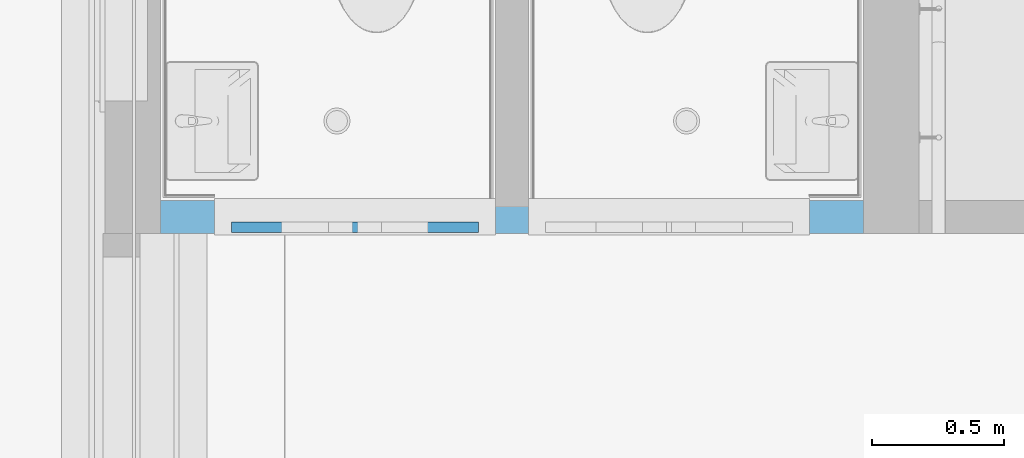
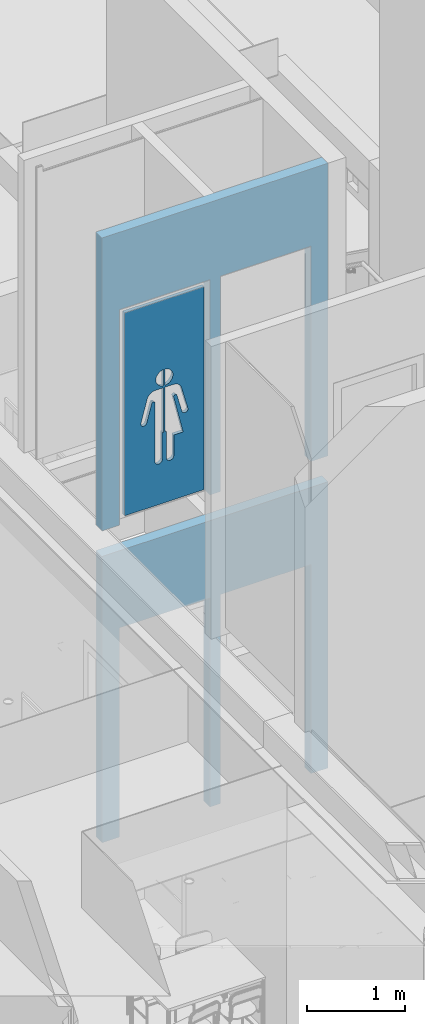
# One storey, part 59 of 347: 1 building element part, 4 openings, 1 element without a shape of its own, plus 1 element that does not belong to this part.
"""IFC2X3 building model written with IfcOpenShell, lengths in millimetres."""

from ifc_helpers import new_model, entity, si_unit, converted_unit, derived_unit, money_unit, direction, frame, origin_with_axes, place, context, subcontext, project, spatial, faceted_brep, material, type_object, element, fill, aggregate, save


model = new_model("IFC2X3")

# Units and contexts
model_context = context("Model", 3, precision=0.01, world=origin_with_axes(), true_north=direction((0.0, 1.0)))
plan_context = context("Plan", 3, precision=0.01, world=origin_with_axes(), true_north=direction((0.0, 1.0)))
body_context = subcontext(model_context, "Body", "Model", "MODEL_VIEW")
ifc_project = project(units=[si_unit("LENGTHUNIT", "METRE", prefix="MILLI"), si_unit("AREAUNIT", "SQUARE_METRE"), si_unit("VOLUMEUNIT", "CUBIC_METRE"), converted_unit("PLANEANGLEUNIT", "DEGREE", entity("IfcPlaneAngleMeasure", 0.0174532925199), si_unit("PLANEANGLEUNIT", "RADIAN"), dimensions=[0, 0, 0, 0, 0, 0, 0]), money_unit("EUR"), converted_unit("TIMEUNIT", "Year", entity("IfcTimeMeasure", 31556926.0), si_unit("TIMEUNIT", "SECOND"), dimensions=[0, 0, 1, 0, 0, 0, 0]), si_unit("MASSUNIT", "GRAM", prefix="KILO"), si_unit("THERMODYNAMICTEMPERATUREUNIT", "DEGREE_CELSIUS"), si_unit("LUMINOUSINTENSITYUNIT", "LUMEN"), si_unit("ENERGYUNIT", "JOULE", prefix="MEGA"), derived_unit("THERMALCONDUCTANCEUNIT", [(si_unit("POWERUNIT", "WATT"), 1), (si_unit("LENGTHUNIT", "METRE"), -1), (si_unit("THERMODYNAMICTEMPERATUREUNIT", "KELVIN"), -1)]), derived_unit("SPECIFICHEATCAPACITYUNIT", [(si_unit("ENERGYUNIT", "JOULE"), 1), (si_unit("MASSUNIT", "GRAM", prefix="KILO"), -1), (si_unit("THERMODYNAMICTEMPERATUREUNIT", "KELVIN"), -1)]), derived_unit("MASSDENSITYUNIT", [(si_unit("MASSUNIT", "GRAM", prefix="KILO"), 1), (si_unit("VOLUMEUNIT", "CUBIC_METRE"), -1)])], contexts=[model_context, plan_context])

# Site, building, storey
site_placement = place(None, origin_with_axes())
site = spatial("IfcSite", under=ifc_project, at=site_placement, Name="Site", CompositionType="ELEMENT")
building_placement = place(site_placement, origin_with_axes())
building = spatial("IfcBuilding", under=site, at=building_placement, Name="Naam gebouw", CompositionType="ELEMENT")
storey_placement = place(building_placement, origin_with_axes())
storey = spatial("IfcBuildingStorey", under=building, at=storey_placement, Name="begane grond", CompositionType="ELEMENT", Elevation=0.0)

# Wall, openings, door, building element part
ifc_material_1 = material(Name="ALG - LICHTE SCHEIDINGSWAND")
wall_type = type_object("IfcWallType", Name="ALG LSW 125 125", PredefinedType="NOTDEFINED")
wall_placement = place(storey_placement, frame((35705.0, 30074.9999277, 0.0), z_axis=(0.0, 0.0, 1.0), x_axis=(1.0, 0.0, 0.0)))
wall = element("IfcWall", 1, at=wall_placement, inside=storey, type_object=wall_type, material=ifc_material_1, Name="22_GF 125 ECO DGS/2.75.2A", context=body_context, shape_type="Brep", body=[
    faceted_brep([(1392.5, 125.0, 2600.0), (1392.5, 125.0, 0.0), (1267.5, 125.0, 0.0), (1267.5, 125.0, 2600.0), (203.5, 125.0, 2600.0), (203.5, 125.0, 0.0), (0.0, 125.0, 0.0), (0.0, 125.0, 3560.0), (2660.0, 125.0, 3560.0), (2660.0, 125.0, 0.0), (2456.5, 125.0, 0.0), (2456.5, 125.0, 2600.0), (1392.5, 0.0, 2600.0), (1392.5, 0.0, 0.0), (1267.5, 0.0, 0.0), (1267.5, 0.0, 2600.0), (203.5, 0.0, 2600.0), (203.5, 0.0, 0.0), (0.0, 0.0, 0.0), (0.0, 0.0, 3560.0), (2660.0, 0.0, 3560.0), (2660.0, 0.0, 0.0), (2456.5, 0.0, 0.0), (2456.5, 0.0, 2600.0)], [[[0, 1, 2, 3, 4, 5, 6, 7, 8, 9, 10, 11]], [[1, 0, 12, 13]], [[1, 13, 14, 2]], [[2, 14, 15, 3]], [[3, 15, 16, 4]], [[4, 16, 17, 5]], [[17, 18, 6, 5]], [[7, 6, 18, 19]], [[8, 7, 19, 20]], [[20, 21, 9, 8]], [[22, 10, 9, 21]], [[11, 10, 22, 23]], [[0, 11, 23, 12]], [[23, 22, 21, 20, 19, 18, 17, 16, 15, 14, 13, 12]]]),
    faceted_brep([(203.5, 125.0, 6560.0), (203.5, 125.0, 3960.0), (203.5, 125.0, 3880.0), (0.0, 125.0, 3880.0), (0.0, 125.0, 7520.0), (2660.0, 125.0, 7520.0), (2660.0, 125.0, 3880.0), (2456.5, 125.0, 3880.0), (2456.5, 125.0, 3960.0), (2456.5, 125.0, 6560.0), (1392.5, 125.0, 6560.0), (1392.5, 125.0, 3960.0), (1392.5, 125.0, 3880.0), (1267.5, 125.0, 3880.0), (1267.5, 125.0, 3960.0), (1267.5, 125.0, 6560.0), (203.5, 0.0, 6560.0), (203.5, 0.0, 3960.0), (203.5, 0.0, 3880.0), (0.0, 0.0, 3880.0), (0.0, 0.0, 7520.0), (2660.0, 0.0, 7520.0), (2660.0, 0.0, 3880.0), (2456.5, 0.0, 3880.0), (2456.5, 0.0, 3960.0), (2456.5, 0.0, 6560.0), (1392.5, 0.0, 6560.0), (1392.5, 0.0, 3960.0), (1392.5, 0.0, 3880.0), (1267.5, 0.0, 3880.0), (1267.5, 0.0, 3960.0), (1267.5, 0.0, 6560.0)], [[[0, 1, 2, 3, 4, 5, 6, 7, 8, 9, 10, 11, 12, 13, 14, 15]], [[1, 0, 16, 17]], [[1, 17, 18, 2]], [[18, 19, 3, 2]], [[19, 20, 4, 3]], [[4, 20, 21, 5]], [[6, 5, 21, 22]], [[7, 6, 22, 23]], [[8, 7, 23, 24]], [[8, 24, 25, 9]], [[9, 25, 26, 10]], [[10, 26, 27, 11]], [[27, 28, 12, 11]], [[28, 29, 13, 12]], [[30, 14, 13, 29]], [[15, 14, 30, 31]], [[0, 15, 31, 16]], [[31, 30, 29, 28, 27, 26, 25, 24, 23, 22, 21, 20, 19, 18, 17, 16]]]),
])
opening_1_placement = place(wall_placement, frame((735.5, 0.0, 0.0), z_axis=(0.0, 0.0, 1.0), x_axis=(1.0, 0.0, 0.0)))
element("IfcOpeningElement", 2, at=opening_1_placement, cuts=wall, Name="32_02.05", context=body_context, shape_type="Brep", body=[
    faceted_brep([(-532.0, 125.0, 2600.0), (-532.0, 125.0, 0.0), (-532.0, -257.0, 0.0), (-532.0, -257.0, 2600.0), (532.0, 125.0, 2600.0), (532.0, 125.0, 0.0), (532.0, -257.0, 0.0), (532.0, -257.0, 2600.0)], [[[0, 1, 2, 3]], [[0, 4, 5, 1]], [[1, 5, 6, 2]], [[3, 2, 6, 7]], [[4, 0, 3, 7]], [[5, 4, 7, 6]]]),
])
opening_2_placement = place(wall_placement, frame((1924.5, 0.0, 0.0), z_axis=(0.0, 0.0, 1.0), x_axis=(1.0, 0.0, 0.0)))
element("IfcOpeningElement", 3, at=opening_2_placement, cuts=wall, Name="32_02.05", context=body_context, shape_type="Brep", body=[
    faceted_brep([(-532.0, 125.0, 2600.0), (-532.0, 125.0, 0.0), (-532.0, -257.0, 0.0), (-532.0, -257.0, 2600.0), (532.0, 125.0, 2600.0), (532.0, 125.0, 0.0), (532.0, -257.0, 0.0), (532.0, -257.0, 2600.0)], [[[0, 1, 2, 3]], [[0, 4, 5, 1]], [[1, 5, 6, 2]], [[3, 2, 6, 7]], [[4, 0, 3, 7]], [[5, 4, 7, 6]]]),
])
opening_3_placement = place(wall_placement, frame((1924.5, 0.0, 3960.0), z_axis=(0.0, 0.0, 1.0), x_axis=(1.0, 0.0, 0.0)))
element("IfcOpeningElement", 4, at=opening_3_placement, cuts=wall, Name="32_02.05", context=body_context, shape_type="Brep", body=[
    faceted_brep([(-532.0, -125.0, 0.0), (-532.0, -125.0, 2600.0), (-532.0, 257.0, 2600.0), (-532.0, 257.0, 0.0), (532.0, -125.0, 0.0), (532.0, -125.0, 2600.0), (532.0, 257.0, 2600.0), (532.0, 257.0, 0.0)], [[[0, 1, 2, 3]], [[0, 4, 5, 1]], [[1, 5, 6, 2]], [[3, 2, 6, 7]], [[4, 0, 3, 7]], [[5, 4, 7, 6]]]),
])
opening_4_placement = place(wall_placement, frame((735.5, 0.0, 3960.0), z_axis=(0.0, 0.0, 1.0), x_axis=(1.0, 0.0, 0.0)))
opening_4 = element("IfcOpeningElement", 5, at=opening_4_placement, cuts=wall, Name="32_02.05", context=body_context, shape_type="Brep", body=[
    faceted_brep([(-532.0, -125.0, 0.0), (-532.0, -125.0, 2600.0), (-532.0, 257.0, 2600.0), (-532.0, 257.0, 0.0), (532.0, -125.0, 0.0), (532.0, -125.0, 2600.0), (532.0, 257.0, 2600.0), (532.0, 257.0, 0.0)], [[[0, 1, 2, 3]], [[0, 4, 5, 1]], [[1, 5, 6, 2]], [[3, 2, 6, 7]], [[4, 0, 3, 7]], [[5, 4, 7, 6]]]),
])
door_style = type_object("IfcDoorStyle", Name="D1 25", ConstructionType="NOTDEFINED", OperationType="SINGLE_SWING_RIGHT", ParameterTakesPrecedence=False, Sizeable=False)
door_placement = place(opening_4_placement, frame((532.0, 0.0, 0.0), z_axis=(0.0, 0.0, 1.0), x_axis=(-1.0, 0.0, 0.0)))
door = element("IfcDoor", 6, at=door_placement, inside=storey, type_object=door_style, Name="32_02.05", ObjectType="DOOR", OverallHeight=2600.0, OverallWidth=1064.0)
fill(opening_4, door)
ifc_material_2 = material(Name="Hout C")
building_element_part_placement = place(door_placement, origin_with_axes())
building_element_part = element("IfcBuildingElementPart", 7, at=building_element_part_placement, material=ifc_material_2, Name="Hout C", context=body_context, shape_type="Brep", body=[
    faceted_brep([(999.0, -3.0, 2535.0), (999.0, -43.0, 2535.0), (999.0, -43.0, 10.0), (999.0, -3.0, 10.0), (65.0, -3.0, 2535.0), (65.0, -43.0, 2535.0), (65.0, -43.0, 10.0), (521.956979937, -43.0, 890.229090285), (506.89247812, -43.0, 890.229090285), (506.89247812, -43.0, 563.286854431), (507.306718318, -43.0, 559.546364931), (506.825716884, -43.0, 552.034934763), (505.049848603, -43.0, 544.721284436), (502.03307235, -43.0, 537.827635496), (497.867051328, -43.0, 531.563447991), (492.678367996, -43.0, 526.119056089), (486.624677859, -43.0, 521.659884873), (479.889919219, -43.0, 518.321424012), (472.678724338, -43.0, 516.205110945), (465.21020169, -43.0, 515.375248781), (457.711278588, -43.0, 515.857052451), (450.409805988, -43.0, 517.635882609), (443.527635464, -43.0, 520.657690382), (437.273878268, -43.0, 524.830659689), (431.838551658, -43.0, 530.027996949), (427.386805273, -43.0, 536.091783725), (424.053903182, -43.0, 542.8377749), (421.941113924, -43.0, 550.06099695), (421.112633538, -43.0, 557.54197595), (421.526873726, -43.0, 563.286854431), (421.526873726, -43.0, 814.780876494), (312.133961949, -43.0, 814.780876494), (423.986544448, -43.0, 1292.61952191), (423.214725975, -43.0, 1296.47224326), (421.800308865, -43.0, 1299.82482097), (419.826180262, -43.0, 1302.8804449), (417.352323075, -43.0, 1305.54627145), (414.453904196, -43.0, 1307.74130085), (411.218990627, -43.0, 1309.39883823), (407.745873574, -43.0, 1310.46852015), (404.140081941, -43.0, 1310.91784487), (400.511175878, -43.0, 1310.73315989), (396.969417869, -43.0, 1309.92007677), (393.622422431, -43.0, 1308.50330061), (390.571886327, -43.0, 1306.52587948), (387.910498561, -43.0, 1304.04789628), (385.719124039, -43.0, 1301.14464328), (384.064346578, -43.0, 1297.90433437), (382.996445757, -43.0, 1294.42542469), (382.772157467, -43.0, 1292.61952191), (324.076421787, -43.0, 1073.19870027), (323.280860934, -43.0, 1070.22315824), (320.682237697, -43.0, 1064.63924071), (317.155070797, -43.0, 1059.59215425), (312.806531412, -43.0, 1055.235252), (307.768747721, -43.0, 1051.70091623), (302.194790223, -43.0, 1049.09653598), (296.254020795, -43.0, 1047.50124399), (290.126946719, -43.0, 1046.96351241), (283.999736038, -43.0, 1047.49967995), (278.058560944, -43.0, 1049.09345542), (272.483941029, -43.0, 1051.69641276), (267.445258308, -43.0, 1055.22946244), (263.095610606, -43.0, 1059.58525451), (259.567159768, -43.0, 1064.63144045), (256.967115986, -43.0, 1070.21469446), (255.374480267, -43.0, 1076.16537218), (254.837644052, -43.0, 1082.30266527), (255.37291883, -43.0, 1088.44009521), (256.168479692, -43.0, 1091.41563724), (330.41108363, -43.0, 1368.954906), (332.68519628, -43.0, 1377.45616444), (340.111863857, -43.0, 1393.40926659), (350.191318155, -43.0, 1407.82822709), (362.617300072, -43.0, 1420.27493311), (377.01225242, -43.0, 1430.37119778), (392.938791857, -43.0, 1437.81025123), (409.912998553, -43.0, 1442.36606156), (427.419117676, -43.0, 1443.51593625), (521.956979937, -43.0, 1443.51593625), (521.956979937, -43.0, 1669.35630499), (521.956979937, -43.0, 1469.16959144), (513.214526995, -43.0, 1470.04970729), (496.300408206, -43.0, 1474.82448312), (480.471003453, -43.0, 1482.46872393), (466.207281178, -43.0, 1492.75016333), (453.942637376, -43.0, 1505.35640498), (444.049727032, -43.0, 1519.90441461), (436.829141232, -43.0, 1535.9521583), (432.500273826, -43.0, 1553.01203348), (431.569892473, -43.0, 1569.26294821), (431.569892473, -43.0, 1578.06409863), (434.621410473, -43.0, 1595.39898096), (440.631727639, -43.0, 1611.93973315), (449.418223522, -43.0, 1627.18377283), (460.713924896, -43.0, 1640.66791757), (474.175617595, -43.0, 1651.98245845), (489.394274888, -43.0, 1660.78360886), (505.907485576, -43.0, 1666.80395031), (542.043020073, -43.0, 1669.35630499), (550.785473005, -43.0, 1668.47618914), (567.699591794, -43.0, 1663.7014133), (583.528996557, -43.0, 1656.05717249), (597.792718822, -43.0, 1645.77573309), (610.057362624, -43.0, 1633.16949145), (619.950272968, -43.0, 1618.62148182), (627.170858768, -43.0, 1602.57373813), (631.499726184, -43.0, 1585.51386294), (632.430107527, -43.0, 1569.26294821), (632.430107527, -43.0, 1560.4617978), (629.378589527, -43.0, 1543.12691547), (623.368272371, -43.0, 1526.58616327), (614.581776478, -43.0, 1511.34212359), (603.286075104, -43.0, 1497.85797885), (589.824382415, -43.0, 1486.54343798), (574.605725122, -43.0, 1477.74228756), (558.092514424, -43.0, 1471.72194611), (542.043020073, -43.0, 1469.16959144), (808.62552127, -43.0, 1088.44895872), (809.162357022, -43.0, 1082.31166558), (808.627081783, -43.0, 1076.17423568), (807.035959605, -43.0, 1070.22315174), (804.437335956, -43.0, 1064.63923441), (800.910168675, -43.0, 1059.59214821), (796.561628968, -43.0, 1055.23524628), (791.523845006, -43.0, 1051.70091091), (785.949887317, -43.0, 1049.09653107), (780.009117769, -43.0, 1047.50123953), (773.882043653, -43.0, 1046.96350842), (767.754833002, -43.0, 1047.49967641), (761.813658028, -43.0, 1049.09345233), (756.239038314, -43.0, 1051.6964101), (751.200355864, -43.0, 1055.22946015), (746.850708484, -43.0, 1059.58525256), (743.322258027, -43.0, 1064.63143877), (740.722214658, -43.0, 1070.21469297), (739.923578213, -43.0, 1073.19870026), (681.011836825, -43.0, 1292.61952191), (680.349375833, -43.0, 1295.95494878), (679.047948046, -43.0, 1299.10211348), (677.220702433, -43.0, 1301.97509819), (674.923158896, -43.0, 1304.48660874), (672.225127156, -43.0, 1306.56033414), (669.208585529, -43.0, 1308.13326528), (665.965190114, -43.0, 1309.15760948), (662.593489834, -43.0, 1309.60224253), (659.195932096, -43.0, 1309.45365449), (655.875749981, -43.0, 1308.71636013), (652.733825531, -43.0, 1307.41276178), (649.865624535, -43.0, 1305.58246859), (647.358295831, -43.0, 1303.2810931), (645.288023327, -43.0, 1300.57856146), (643.717711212, -43.0, 1297.5569887), (642.695072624, -43.0, 1294.3081838), (642.473126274, -43.0, 1292.61952191), (642.473126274, -43.0, 563.286854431), (642.887366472, -43.0, 559.546364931), (642.406365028, -43.0, 552.034934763), (640.630496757, -43.0, 544.721284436), (637.613720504, -43.0, 537.827635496), (633.447699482, -43.0, 531.563447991), (628.25901614, -43.0, 526.119056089), (622.205326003, -43.0, 521.659884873), (615.470567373, -43.0, 518.321424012), (608.259372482, -43.0, 516.205110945), (600.790849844, -43.0, 515.375248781), (593.291926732, -43.0, 515.857052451), (585.990454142, -43.0, 517.635882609), (579.108283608, -43.0, 520.657690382), (572.854526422, -43.0, 524.830659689), (567.419199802, -43.0, 530.027996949), (562.967453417, -43.0, 536.091783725), (559.634551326, -43.0, 542.8377749), (557.521762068, -43.0, 550.06099695), (556.693281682, -43.0, 557.54197595), (557.10752188, -43.0, 563.286854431), (557.10752188, -43.0, 890.229090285), (542.043020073, -43.0, 890.229090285), (542.043020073, -43.0, 1443.51593625), (636.580882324, -43.0, 1443.51593625), (645.367378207, -43.0, 1443.51593625), (662.673396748, -43.0, 1440.4593288), (679.186607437, -43.0, 1434.43898735), (694.405264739, -43.0, 1425.63783693), (707.866957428, -43.0, 1414.32329606), (719.162658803, -43.0, 1400.83915132), (727.949154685, -43.0, 1385.59511164), (733.58891637, -43.0, 1368.954906), (65.0, -3.0, 10.0), (521.956979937, -3.0, 890.229090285), (521.956979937, -3.0, 1443.51593625), (427.419117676, -3.0, 1443.51593625), (409.912998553, -3.0, 1442.36606156), (392.938791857, -3.0, 1437.81025123), (377.01225242, -3.0, 1430.37119778), (362.617300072, -3.0, 1420.27493311), (350.191318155, -3.0, 1407.82822709), (340.111863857, -3.0, 1393.40926659), (332.68519628, -3.0, 1377.45616444), (330.41108363, -3.0, 1368.954906), (256.168479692, -3.0, 1091.41563724), (255.37291883, -3.0, 1088.44009521), (254.837644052, -3.0, 1082.30266527), (255.374480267, -3.0, 1076.16537218), (256.967115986, -3.0, 1070.21469446), (259.567159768, -3.0, 1064.63144045), (263.095610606, -3.0, 1059.58525451), (267.445258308, -3.0, 1055.22946244), (272.483941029, -3.0, 1051.69641276), (278.058560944, -3.0, 1049.09345542), (283.999736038, -3.0, 1047.49967995), (290.126946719, -3.0, 1046.96351241), (296.254020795, -3.0, 1047.50124399), (302.194790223, -3.0, 1049.09653598), (307.768747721, -3.0, 1051.70091623), (312.806531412, -3.0, 1055.235252), (317.155070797, -3.0, 1059.59215425), (320.682237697, -3.0, 1064.63924071), (323.280860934, -3.0, 1070.22315824), (324.076421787, -3.0, 1073.19870027), (382.772157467, -3.0, 1292.61952191), (382.996445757, -3.0, 1294.42542469), (384.064346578, -3.0, 1297.90433437), (385.719124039, -3.0, 1301.14464328), (387.910498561, -3.0, 1304.04789628), (390.571886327, -3.0, 1306.52587948), (393.622422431, -3.0, 1308.50330061), (396.969417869, -3.0, 1309.92007677), (400.511175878, -3.0, 1310.73315989), (404.140081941, -3.0, 1310.91784487), (407.745873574, -3.0, 1310.46852015), (411.218990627, -3.0, 1309.39883823), (414.453904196, -3.0, 1307.74130085), (417.352323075, -3.0, 1305.54627145), (419.826180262, -3.0, 1302.8804449), (421.800308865, -3.0, 1299.82482097), (423.214725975, -3.0, 1296.47224326), (423.986544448, -3.0, 1292.61952191), (312.133961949, -3.0, 814.780876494), (421.526873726, -3.0, 814.780876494), (421.526873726, -3.0, 563.286854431), (421.112633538, -3.0, 557.54197595), (421.941113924, -3.0, 550.06099695), (424.053903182, -3.0, 542.8377749), (427.386805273, -3.0, 536.091783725), (431.838551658, -3.0, 530.027996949), (437.273878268, -3.0, 524.830659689), (443.527635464, -3.0, 520.657690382), (450.409805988, -3.0, 517.635882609), (457.711278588, -3.0, 515.857052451), (465.21020169, -3.0, 515.375248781), (472.678724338, -3.0, 516.205110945), (479.889919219, -3.0, 518.321424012), (486.624677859, -3.0, 521.659884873), (492.678367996, -3.0, 526.119056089), (497.867051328, -3.0, 531.563447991), (502.03307235, -3.0, 537.827635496), (505.049848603, -3.0, 544.721284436), (506.825716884, -3.0, 552.034934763), (507.306718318, -3.0, 559.546364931), (506.89247812, -3.0, 563.286854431), (506.89247812, -3.0, 890.229090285), (521.956979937, -3.0, 1669.35630499), (505.907485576, -3.0, 1666.80395031), (489.394274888, -3.0, 1660.78360886), (474.175617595, -3.0, 1651.98245845), (460.713924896, -3.0, 1640.66791757), (449.418223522, -3.0, 1627.18377283), (440.631727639, -3.0, 1611.93973315), (434.621410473, -3.0, 1595.39898096), (431.569892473, -3.0, 1578.06409863), (431.569892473, -3.0, 1569.26294821), (432.500273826, -3.0, 1553.01203348), (436.829141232, -3.0, 1535.9521583), (444.049727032, -3.0, 1519.90441461), (453.942637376, -3.0, 1505.35640498), (466.207281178, -3.0, 1492.75016333), (480.471003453, -3.0, 1482.46872393), (496.300408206, -3.0, 1474.82448312), (513.214526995, -3.0, 1470.04970729), (521.956979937, -3.0, 1469.16959144), (542.043020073, -3.0, 1669.35630499), (542.043020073, -3.0, 1469.16959144), (558.092514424, -3.0, 1471.72194611), (574.605725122, -3.0, 1477.74228756), (589.824382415, -3.0, 1486.54343798), (603.286075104, -3.0, 1497.85797885), (614.581776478, -3.0, 1511.34212359), (623.368272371, -3.0, 1526.58616327), (629.378589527, -3.0, 1543.12691547), (632.430107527, -3.0, 1560.4617978), (632.430107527, -3.0, 1569.26294821), (631.499726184, -3.0, 1585.51386294), (627.170858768, -3.0, 1602.57373813), (619.950272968, -3.0, 1618.62148182), (610.057362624, -3.0, 1633.16949145), (597.792718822, -3.0, 1645.77573309), (583.528996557, -3.0, 1656.05717249), (567.699591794, -3.0, 1663.7014133), (550.785473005, -3.0, 1668.47618914), (808.62552127, -3.0, 1088.44895872), (733.58891637, -3.0, 1368.954906), (727.949154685, -3.0, 1385.59511164), (719.162658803, -3.0, 1400.83915132), (707.866957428, -3.0, 1414.32329606), (694.405264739, -3.0, 1425.63783693), (679.186607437, -3.0, 1434.43898735), (662.673396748, -3.0, 1440.4593288), (645.367378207, -3.0, 1443.51593625), (636.580882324, -3.0, 1443.51593625), (542.043020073, -3.0, 1443.51593625), (542.043020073, -3.0, 890.229090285), (557.10752188, -3.0, 890.229090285), (557.10752188, -3.0, 563.286854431), (556.693281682, -3.0, 557.54197595), (557.521762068, -3.0, 550.06099695), (559.634551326, -3.0, 542.8377749), (562.967453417, -3.0, 536.091783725), (567.419199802, -3.0, 530.027996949), (572.854526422, -3.0, 524.830659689), (579.108283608, -3.0, 520.657690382), (585.990454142, -3.0, 517.635882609), (593.291926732, -3.0, 515.857052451), (600.790849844, -3.0, 515.375248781), (608.259372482, -3.0, 516.205110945), (615.470567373, -3.0, 518.321424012), (622.205326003, -3.0, 521.659884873), (628.25901614, -3.0, 526.119056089), (633.447699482, -3.0, 531.563447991), (637.613720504, -3.0, 537.827635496), (640.630496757, -3.0, 544.721284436), (642.406365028, -3.0, 552.034934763), (642.887366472, -3.0, 559.546364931), (642.473126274, -3.0, 563.286854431), (642.473126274, -3.0, 1292.61952191), (642.695072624, -3.0, 1294.3081838), (643.717711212, -3.0, 1297.5569887), (645.288023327, -3.0, 1300.57856146), (647.358295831, -3.0, 1303.2810931), (649.865624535, -3.0, 1305.58246859), (652.733825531, -3.0, 1307.41276178), (655.875749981, -3.0, 1308.71636013), (659.195932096, -3.0, 1309.45365449), (662.593489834, -3.0, 1309.60224253), (665.965190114, -3.0, 1309.15760948), (669.208585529, -3.0, 1308.13326528), (672.225127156, -3.0, 1306.56033414), (674.923158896, -3.0, 1304.48660874), (677.220702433, -3.0, 1301.97509819), (679.047948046, -3.0, 1299.10211348), (680.349375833, -3.0, 1295.95494878), (681.011836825, -3.0, 1292.61952191), (739.923578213, -3.0, 1073.19870026), (740.722214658, -3.0, 1070.21469297), (743.322258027, -3.0, 1064.63143877), (746.850708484, -3.0, 1059.58525256), (751.200355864, -3.0, 1055.22946015), (756.239038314, -3.0, 1051.6964101), (761.813658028, -3.0, 1049.09345233), (767.754833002, -3.0, 1047.49967641), (773.882043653, -3.0, 1046.96350842), (780.009117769, -3.0, 1047.50123953), (785.949887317, -3.0, 1049.09653107), (791.523845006, -3.0, 1051.70091091), (796.561628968, -3.0, 1055.23524628), (800.910168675, -3.0, 1059.59214821), (804.437335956, -3.0, 1064.63923441), (807.035959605, -3.0, 1070.22315174), (808.627081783, -3.0, 1076.17423568), (809.162357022, -3.0, 1082.31166558)], [[[0, 1, 2, 3]], [[4, 5, 1, 0]], [[1, 5, 6, 2], [7, 8, 9, 10, 11, 12, 13, 14, 15, 16, 17, 18, 19, 20, 21, 22, 23, 24, 25, 26, 27, 28, 29, 30, 31, 32, 33, 34, 35, 36, 37, 38, 39, 40, 41, 42, 43, 44, 45, 46, 47, 48, 49, 50, 51, 52, 53, 54, 55, 56, 57, 58, 59, 60, 61, 62, 63, 64, 65, 66, 67, 68, 69, 70, 71, 72, 73, 74, 75, 76, 77, 78, 79], [80, 81, 82, 83, 84, 85, 86, 87, 88, 89, 90, 91, 92, 93, 94, 95, 96, 97, 98], [99, 100, 101, 102, 103, 104, 105, 106, 107, 108, 109, 110, 111, 112, 113, 114, 115, 116, 117], [118, 119, 120, 121, 122, 123, 124, 125, 126, 127, 128, 129, 130, 131, 132, 133, 134, 135, 136, 137, 138, 139, 140, 141, 142, 143, 144, 145, 146, 147, 148, 149, 150, 151, 152, 153, 154, 155, 156, 157, 158, 159, 160, 161, 162, 163, 164, 165, 166, 167, 168, 169, 170, 171, 172, 173, 174, 175, 176, 177, 178, 179, 180, 181, 182, 183, 184, 185, 186, 187]], [[3, 2, 6, 188]], [[0, 3, 188, 4], [189, 190, 191, 192, 193, 194, 195, 196, 197, 198, 199, 200, 201, 202, 203, 204, 205, 206, 207, 208, 209, 210, 211, 212, 213, 214, 215, 216, 217, 218, 219, 220, 221, 222, 223, 224, 225, 226, 227, 228, 229, 230, 231, 232, 233, 234, 235, 236, 237, 238, 239, 240, 241, 242, 243, 244, 245, 246, 247, 248, 249, 250, 251, 252, 253, 254, 255, 256, 257, 258, 259, 260, 261], [262, 263, 264, 265, 266, 267, 268, 269, 270, 271, 272, 273, 274, 275, 276, 277, 278, 279, 280], [281, 282, 283, 284, 285, 286, 287, 288, 289, 290, 291, 292, 293, 294, 295, 296, 297, 298, 299], [300, 301, 302, 303, 304, 305, 306, 307, 308, 309, 310, 311, 312, 313, 314, 315, 316, 317, 318, 319, 320, 321, 322, 323, 324, 325, 326, 327, 328, 329, 330, 331, 332, 333, 334, 335, 336, 337, 338, 339, 340, 341, 342, 343, 344, 345, 346, 347, 348, 349, 350, 351, 352, 353, 354, 355, 356, 357, 358, 359, 360, 361, 362, 363, 364, 365, 366, 367, 368, 369]], [[188, 6, 5, 4]], [[261, 8, 7, 189]], [[260, 9, 8, 261]], [[259, 10, 9, 260]], [[258, 11, 10, 259]], [[257, 12, 11, 258]], [[256, 13, 12, 257]], [[255, 14, 13, 256]], [[254, 15, 14, 255]], [[253, 16, 15, 254]], [[252, 17, 16, 253]], [[251, 18, 17, 252]], [[250, 19, 18, 251]], [[249, 20, 19, 250]], [[248, 21, 20, 249]], [[247, 22, 21, 248]], [[246, 23, 22, 247]], [[245, 24, 23, 246]], [[244, 25, 24, 245]], [[243, 26, 25, 244]], [[242, 27, 26, 243]], [[241, 28, 27, 242]], [[240, 29, 28, 241]], [[239, 30, 29, 240]], [[238, 31, 30, 239]], [[237, 32, 31, 238]], [[236, 33, 32, 237]], [[235, 34, 33, 236]], [[234, 35, 34, 235]], [[233, 36, 35, 234]], [[232, 37, 36, 233]], [[231, 38, 37, 232]], [[230, 39, 38, 231]], [[229, 40, 39, 230]], [[228, 41, 40, 229]], [[227, 42, 41, 228]], [[226, 43, 42, 227]], [[225, 44, 43, 226]], [[224, 45, 44, 225]], [[223, 46, 45, 224]], [[222, 47, 46, 223]], [[221, 48, 47, 222]], [[220, 49, 48, 221]], [[219, 50, 49, 220]], [[218, 51, 50, 219]], [[217, 52, 51, 218]], [[216, 53, 52, 217]], [[215, 54, 53, 216]], [[214, 55, 54, 215]], [[213, 56, 55, 214]], [[212, 57, 56, 213]], [[211, 58, 57, 212]], [[210, 59, 58, 211]], [[209, 60, 59, 210]], [[208, 61, 60, 209]], [[207, 62, 61, 208]], [[206, 63, 62, 207]], [[205, 64, 63, 206]], [[204, 65, 64, 205]], [[203, 66, 65, 204]], [[202, 67, 66, 203]], [[201, 68, 67, 202]], [[200, 69, 68, 201]], [[199, 70, 69, 200]], [[198, 71, 70, 199]], [[197, 72, 71, 198]], [[196, 73, 72, 197]], [[195, 74, 73, 196]], [[194, 75, 74, 195]], [[193, 76, 75, 194]], [[192, 77, 76, 193]], [[191, 78, 77, 192]], [[190, 79, 78, 191]], [[189, 7, 79, 190]], [[280, 81, 80, 262]], [[279, 82, 81, 280]], [[278, 83, 82, 279]], [[277, 84, 83, 278]], [[276, 85, 84, 277]], [[275, 86, 85, 276]], [[274, 87, 86, 275]], [[273, 88, 87, 274]], [[272, 89, 88, 273]], [[271, 90, 89, 272]], [[270, 91, 90, 271]], [[269, 92, 91, 270]], [[268, 93, 92, 269]], [[267, 94, 93, 268]], [[266, 95, 94, 267]], [[265, 96, 95, 266]], [[264, 97, 96, 265]], [[263, 98, 97, 264]], [[262, 80, 98, 263]], [[299, 100, 99, 281]], [[298, 101, 100, 299]], [[297, 102, 101, 298]], [[296, 103, 102, 297]], [[295, 104, 103, 296]], [[294, 105, 104, 295]], [[293, 106, 105, 294]], [[292, 107, 106, 293]], [[291, 108, 107, 292]], [[290, 109, 108, 291]], [[289, 110, 109, 290]], [[288, 111, 110, 289]], [[287, 112, 111, 288]], [[286, 113, 112, 287]], [[285, 114, 113, 286]], [[284, 115, 114, 285]], [[283, 116, 115, 284]], [[282, 117, 116, 283]], [[281, 99, 117, 282]], [[369, 119, 118, 300]], [[368, 120, 119, 369]], [[367, 121, 120, 368]], [[366, 122, 121, 367]], [[365, 123, 122, 366]], [[364, 124, 123, 365]], [[363, 125, 124, 364]], [[362, 126, 125, 363]], [[361, 127, 126, 362]], [[360, 128, 127, 361]], [[359, 129, 128, 360]], [[358, 130, 129, 359]], [[357, 131, 130, 358]], [[356, 132, 131, 357]], [[355, 133, 132, 356]], [[354, 134, 133, 355]], [[353, 135, 134, 354]], [[352, 136, 135, 353]], [[351, 137, 136, 352]], [[350, 138, 137, 351]], [[349, 139, 138, 350]], [[348, 140, 139, 349]], [[347, 141, 140, 348]], [[346, 142, 141, 347]], [[345, 143, 142, 346]], [[344, 144, 143, 345]], [[343, 145, 144, 344]], [[342, 146, 145, 343]], [[341, 147, 146, 342]], [[340, 148, 147, 341]], [[339, 149, 148, 340]], [[338, 150, 149, 339]], [[337, 151, 150, 338]], [[336, 152, 151, 337]], [[335, 153, 152, 336]], [[334, 154, 153, 335]], [[333, 155, 154, 334]], [[332, 156, 155, 333]], [[331, 157, 156, 332]], [[330, 158, 157, 331]], [[329, 159, 158, 330]], [[328, 160, 159, 329]], [[327, 161, 160, 328]], [[326, 162, 161, 327]], [[325, 163, 162, 326]], [[324, 164, 163, 325]], [[323, 165, 164, 324]], [[322, 166, 165, 323]], [[321, 167, 166, 322]], [[320, 168, 167, 321]], [[319, 169, 168, 320]], [[318, 170, 169, 319]], [[317, 171, 170, 318]], [[316, 172, 171, 317]], [[315, 173, 172, 316]], [[314, 174, 173, 315]], [[313, 175, 174, 314]], [[312, 176, 175, 313]], [[311, 177, 176, 312]], [[310, 178, 177, 311]], [[309, 179, 178, 310]], [[308, 180, 179, 309]], [[307, 181, 180, 308]], [[306, 182, 181, 307]], [[305, 183, 182, 306]], [[304, 184, 183, 305]], [[303, 185, 184, 304]], [[302, 186, 185, 303]], [[301, 187, 186, 302]], [[300, 118, 187, 301]]]),
])
aggregate(door, [building_element_part])

save(model, "model.ifc")
